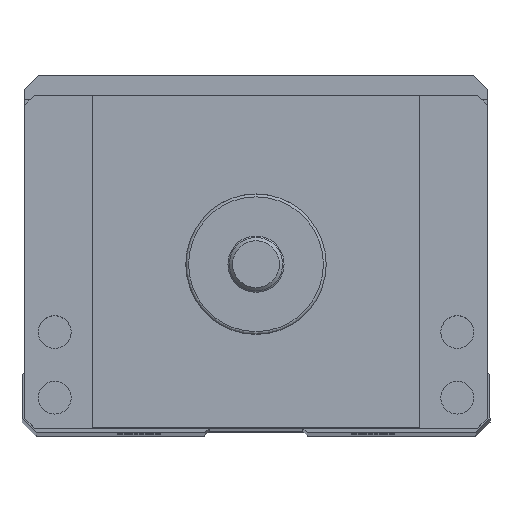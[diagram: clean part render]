
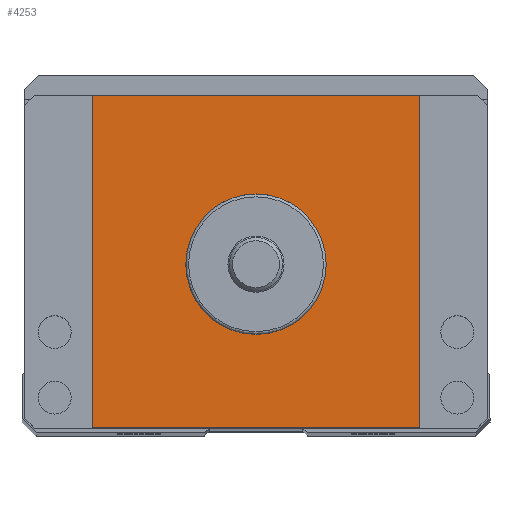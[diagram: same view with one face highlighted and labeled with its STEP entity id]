
A CAD part, top view. The second image highlights one B-rep face of the part: STEP entity #4253.
In plain terms, the highlighted planar face has unit normal (0, 0, 1).
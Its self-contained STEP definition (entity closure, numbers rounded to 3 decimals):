
#4253=ADVANCED_FACE('',(#5078,#5079),#4798,.T.);
#4798=PLANE('',#14131);
#5078=FACE_BOUND('',#5693,.T.);
#5079=FACE_BOUND('',#5694,.T.);
#5693=EDGE_LOOP('',(#7941));
#5694=EDGE_LOOP('',(#7942,#7943,#7944,#7945));
#6314=CIRCLE('',#14130,7.5);
#7941=ORIENTED_EDGE('',*,*,#11187,.T.);
#7942=ORIENTED_EDGE('',*,*,#11188,.T.);
#7943=ORIENTED_EDGE('',*,*,#11189,.T.);
#7944=ORIENTED_EDGE('',*,*,#11184,.T.);
#7945=ORIENTED_EDGE('',*,*,#11190,.T.);
#9965=VERTEX_POINT('',#19232);
#9966=VERTEX_POINT('',#19234);
#9968=VERTEX_POINT('',#19240);
#9969=VERTEX_POINT('',#19242);
#9970=VERTEX_POINT('',#19243);
#11184=EDGE_CURVE('',#9966,#9965,#12469,.T.);
#11187=EDGE_CURVE('',#9968,#9968,#6314,.T.);
#11188=EDGE_CURVE('',#9969,#9970,#12471,.T.);
#11189=EDGE_CURVE('',#9970,#9966,#12472,.T.);
#11190=EDGE_CURVE('',#9965,#9969,#12473,.T.);
#12469=LINE('',#19233,#13332);
#12471=LINE('',#19241,#13334);
#12472=LINE('',#19244,#13335);
#12473=LINE('',#19245,#13336);
#13332=VECTOR('',#16133,1.);
#13334=VECTOR('',#16141,1.);
#13335=VECTOR('',#16142,1.);
#13336=VECTOR('',#16143,1.);
#14130=AXIS2_PLACEMENT_3D('',#19239,#16139,#16140);
#14131=AXIS2_PLACEMENT_3D('',#19246,#16144,#16145);
#16133=DIRECTION('',(-1.,0.,0.));
#16139=DIRECTION('',(0.,0.,-1.));
#16140=DIRECTION('',(1.,0.,0.));
#16141=DIRECTION('',(1.,0.,0.));
#16142=DIRECTION('',(0.,1.,0.));
#16143=DIRECTION('',(0.,-1.,0.));
#16144=DIRECTION('',(0.,0.,1.));
#16145=DIRECTION('',(1.,0.,0.));
#19232=CARTESIAN_POINT('',(182.5,-4.5,51.5));
#19233=CARTESIAN_POINT('',(224.7,-4.5,51.5));
#19234=CARTESIAN_POINT('',(217.5,-4.5,51.5));
#19239=CARTESIAN_POINT('',(200.,-22.5,51.5));
#19240=CARTESIAN_POINT('',(207.5,-22.5,51.5));
#19241=CARTESIAN_POINT('',(175.3,-40.,51.5));
#19242=CARTESIAN_POINT('',(182.5,-40.,51.5));
#19243=CARTESIAN_POINT('',(217.5,-40.,51.5));
#19244=CARTESIAN_POINT('',(217.5,-40.,51.5));
#19245=CARTESIAN_POINT('',(182.5,-40.,51.5));
#19246=CARTESIAN_POINT('',(224.7,-40.,51.5));
